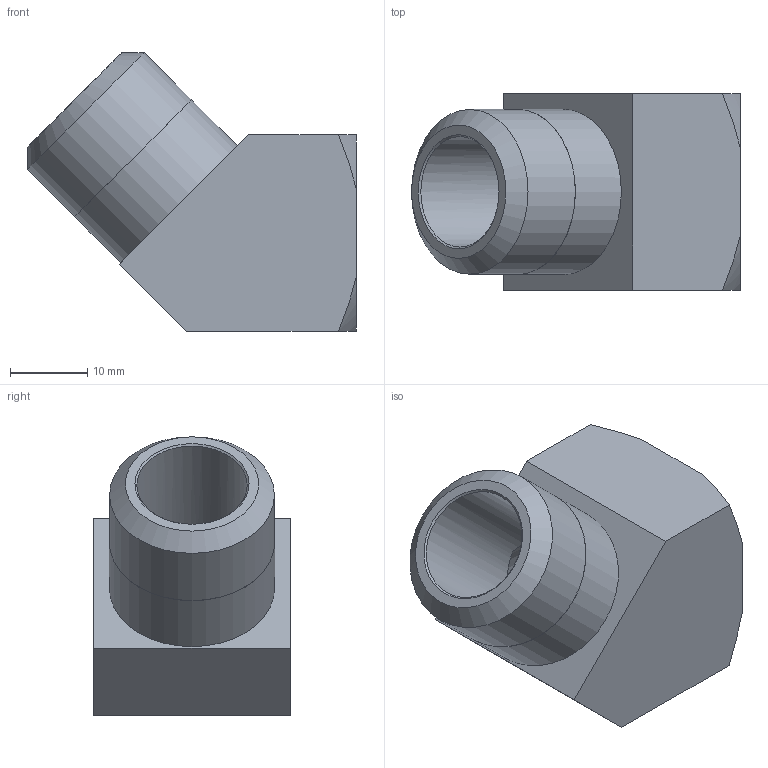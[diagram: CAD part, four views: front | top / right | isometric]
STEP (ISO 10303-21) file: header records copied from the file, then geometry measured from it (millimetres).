
FILE_DESCRIPTION(/* description */ (''),/* implementation_level */ '2;1');
FILE_NAME(/* name */ 'C:/Users/drich/Desktop/AL-50 v1.step',/* time_stamp */ '2020-02-09T11:04:51-06:00',/* author */ (''),/* organization */ (''),/* preprocessor_version */ 'ST-DEVELOPER v18',/* originating_system */ 'Autodesk Translation Framework v8.12.0.6',/* authorisation */ '');
FILE_SCHEMA (('AUTOMOTIVE_DESIGN { 1 0 10303 214 3 1 1 }'));
Length unit declared in the file: inch
Products named in the file (1): AL-50
Bounding box: 42.49 x 25.4 x 35.96 mm (x, y, z)
Volume: 12896.1 mm3; surface area: 6558.1 mm2
Topology: 1 solids, 1 shells, 24 faces, 59 edges, 40 vertices
Faces by surface type: plane 10, cone 9, cylinder 5
Full cylindrical faces by diameter (mm): 14.275 x1, 17.755 x1, 17.78 x1, 21.285 x1, 21.336 x1
Entity records: 802 total; most frequent: CARTESIAN_POINT 192, DIRECTION 119, ORIENTED_EDGE 118, EDGE_CURVE 59, AXIS2_PLACEMENT_3D 48, VERTEX_POINT 40, EDGE_LOOP 29, FACE_OUTER_BOUND 24
